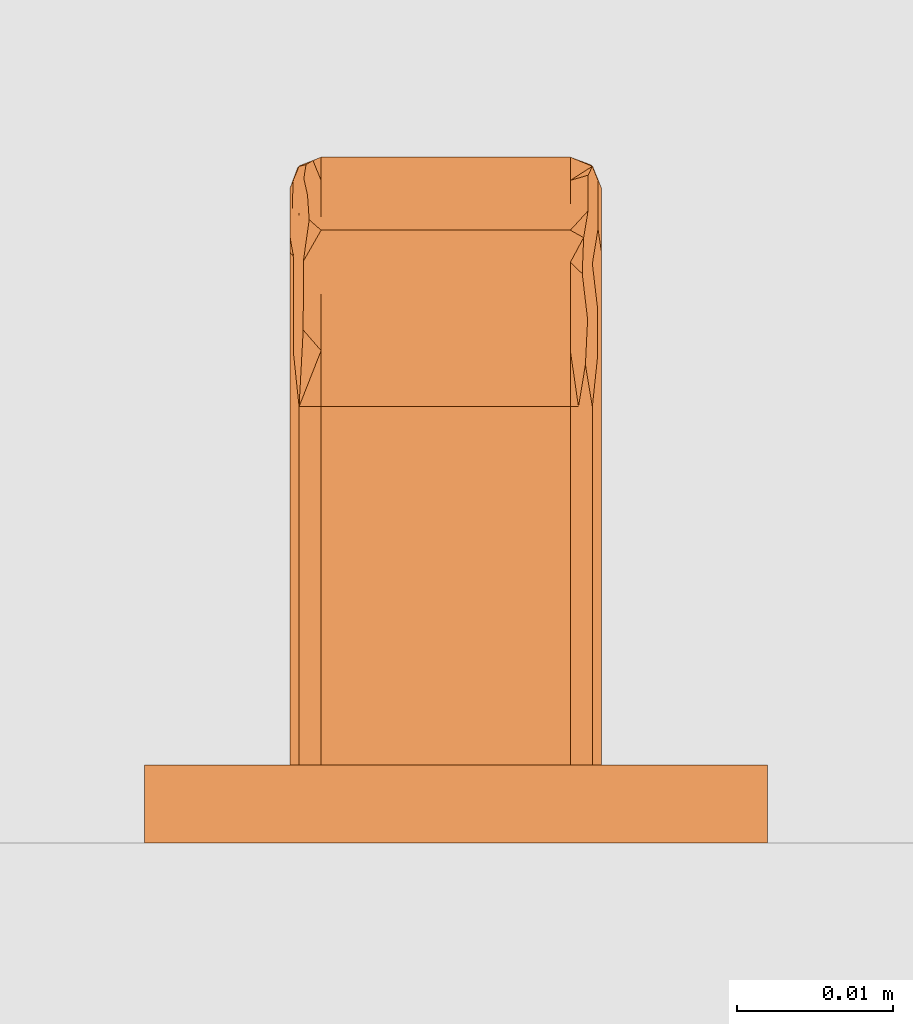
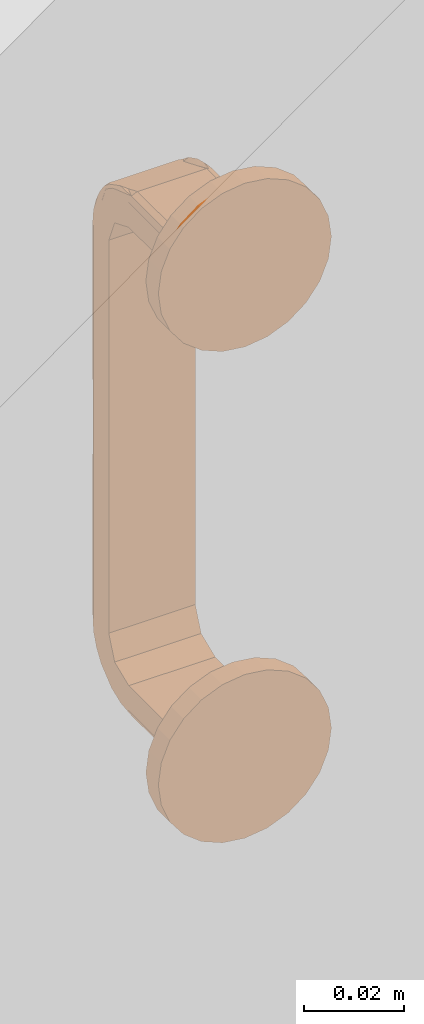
# One storey, part 46 of 67: 1 proxy.
"""IFC4 building model written with IfcOpenShell, lengths in millimetres."""

from ifc_helpers import new_model, entity, si_unit, converted_unit, direction, frame, origin, place, context, subcontext, project, spatial, polygons, source, transform, mapped, material, type_object, type_shapes, element, save


model = new_model("IFC4")

# Units and contexts
model_context = context("Model", 3, precision=0.01, world=origin(), true_north=direction((0.0, 1.0)))
body_context = subcontext(model_context, "Body", "Model", "MODEL_VIEW")
ifc_project = project(units=[si_unit("LENGTHUNIT", "METRE", prefix="MILLI"), si_unit("AREAUNIT", "SQUARE_METRE"), si_unit("VOLUMEUNIT", "CUBIC_METRE"), converted_unit("PLANEANGLEUNIT", "DEGREE", entity("IfcPlaneAngleMeasure", 0.017453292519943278), si_unit("PLANEANGLEUNIT", "RADIAN"), dimensions=[0, 0, 0, 0, 0, 0, 0])], contexts=[model_context])

# Site, building, storey, space
site_placement = place(None, origin())
site = spatial("IfcSite", under=ifc_project, at=site_placement, Name="Tomtens navn", CompositionType="ELEMENT")
building_placement = place(site_placement, origin())
building = spatial("IfcBuilding", under=site, at=building_placement, Name="Byggets navn", CompositionType="ELEMENT")
storey_placement = place(building_placement, origin())
storey = spatial("IfcBuildingStorey", under=building, at=storey_placement, Name="Level 01", CompositionType="ELEMENT", Elevation=2.1993652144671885e-25)
space_placement = place(storey_placement, origin())
space = spatial("IfcSpace", under=storey, at=space_placement, Name="102", CompositionType="ELEMENT", PredefinedType="NOTDEFINED")

# Proxy
ifc_material = material(Name="Handtag, vitt", Category="Unassigned")
building_element_proxy_type = type_object("IfcBuildingElementProxyType", Name="Handtag skåp1:Handtag skåp", PredefinedType="NOTDEFINED", material=ifc_material)
shared_shape = source(origin(), body_context, "Body", "Tessellation", [
    polygons([(8.670220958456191, -4.999999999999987, 4.021099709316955), (10.084434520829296, -4.9999999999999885, 3.435313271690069), (10.67022095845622, -4.999999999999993, 2.021099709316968), (10.67022095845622, -5.0000000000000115, -4.0210997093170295), (-9.32977904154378, -5.0000000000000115, -4.0210997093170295), (-9.32977904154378, -4.999999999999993, 2.021099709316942), (-8.743992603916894, -4.9999999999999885, 3.435313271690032), (-7.32977904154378, -4.999999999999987, 4.021099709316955), (8.670220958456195, -28.00000000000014, 4.0210997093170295), (10.084434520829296, -28.000000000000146, 3.435313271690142), (10.67022095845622, -28.00000000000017, 2.021099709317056), (8.670220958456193, -15.654960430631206, 4.02109970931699), (10.67022095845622, -17.34503987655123, 2.021099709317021), (10.08659387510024, -16.21238630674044, 3.433150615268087), (10.67022095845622, -37.914414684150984, -2.085585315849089), (10.67022095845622, -42.02109970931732, -11.999999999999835), (10.67022095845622, -42.02109970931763, -107.99999999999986), (10.67022095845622, -37.914414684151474, -117.91441468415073), (10.67022095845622, -28.00000000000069, -122.02109970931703), (10.67022095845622, -4.999999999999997, -122.02109970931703), (10.67022095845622, -4.999999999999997, -115.97890029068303), (10.67022095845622, -28.000000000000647, -115.97890029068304), (10.67022095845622, -33.641934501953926, -113.64193450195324), (10.67022095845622, -35.978900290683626, -107.99999999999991), (10.67022095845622, -35.978900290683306, -11.999999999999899), (10.67022095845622, -33.64193450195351, -6.358065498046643), (10.67022095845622, -28.000000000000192, -4.021099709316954), (-9.32977904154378, -28.000000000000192, -4.021099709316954), (-9.32977904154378, -33.64193450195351, -6.358065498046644), (-9.32977904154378, -35.97890029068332, -11.999999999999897), (-9.32977904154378, -35.97890029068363, -107.99999999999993), (-9.32977904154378, -33.641934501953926, -113.64193450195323), (-9.32977904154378, -28.000000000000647, -115.978900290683), (-9.32977904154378, -4.999999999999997, -115.978900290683), (-9.32977904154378, -4.999999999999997, -122.02109970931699), (-9.32977904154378, -28.00000000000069, -122.02109970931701), (-9.32977904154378, -37.91441468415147, -117.91441468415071), (-9.32977904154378, -42.0210997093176, -107.9999999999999), (-9.32977904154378, -42.02109970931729, -11.99999999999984), (-9.32977904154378, -37.91441468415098, -2.085585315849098), (-9.32977904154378, -28.000000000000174, 2.0210997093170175), (-8.743992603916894, -28.000000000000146, 3.435313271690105), (-7.329779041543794, -28.000000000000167, 4.0210997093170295), (-9.32977904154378, -15.654960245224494, 2.0210997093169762), (-7.3297790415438, -17.3450402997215, 4.021099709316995), (-8.741829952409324, -16.212386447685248, 3.4374726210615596), (8.670220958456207, -39.328628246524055, -0.6713717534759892), (8.670220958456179, -44.021099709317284, -11.999999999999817), (10.084434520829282, -43.43531327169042, -11.999999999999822), (10.67022095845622, -31.601265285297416, 0.5294067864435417), (8.670220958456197, -41.037713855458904, -4.797469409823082), (10.084434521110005, -40.40873190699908, -2.820007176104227), (8.670220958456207, -35.20253058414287, 1.0377138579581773), (9.809043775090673, -37.34144424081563, 0.5752165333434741), (9.818751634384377, -32.92350079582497, 2.8642465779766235), (10.67022095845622, -39.96775719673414, -7.042792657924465), (10.377327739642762, -28.000000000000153, 2.7282064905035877), (8.670220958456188, -42.529406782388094, -8.398734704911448), (9.779150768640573, -42.65191997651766, -6.400304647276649), (10.431420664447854, -34.75591670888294, 1.3575143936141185), (10.447049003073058, -37.641402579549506, -0.5884869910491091), (10.67022095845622, -34.7578399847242, -0.7780892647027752), (10.453824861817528, -31.5292743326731, 2.5026982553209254), (8.670220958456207, -31.601265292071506, 2.5294067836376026), (8.670220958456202, -40.18317105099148, -2.7344205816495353), (9.435587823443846, -40.00295364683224, -1.6197407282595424), (9.543801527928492, -41.59747716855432, -3.9137042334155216), (10.67022095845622, -38.941085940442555, -4.564188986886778), (10.502246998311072, -40.95405539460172, -4.794062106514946), (10.477567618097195, -42.45420227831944, -8.476170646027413), (9.193272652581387, -43.80444460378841, -11.999999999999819), (9.638611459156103, -43.53877057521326, -9.303396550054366), (10.67022095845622, -40.99442845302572, -9.521396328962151), (-7.329779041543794, -44.021099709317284, -11.999999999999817), (-7.329779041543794, -39.328628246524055, -0.6713717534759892), (-8.743992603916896, -43.43531327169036, -11.999999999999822), (-7.329779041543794, -35.20253057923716, 1.0377138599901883), (-8.743992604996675, -37.179992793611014, 0.40873192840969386), (-9.32977904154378, -40.52940677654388, -8.39873469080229), (-7.329779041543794, -41.03771385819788, -4.7974694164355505), (-8.468601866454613, -40.57521654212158, -2.658555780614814), (-8.478309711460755, -42.86424658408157, -7.076499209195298), (-9.32977904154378, -32.95720734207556, -0.03224280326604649), (-9.036885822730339, -42.72820649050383, -11.999999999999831), (-7.329779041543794, -31.601265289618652, 2.529406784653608), (-8.43870885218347, -33.59969531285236, 2.6519199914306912), (-9.090978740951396, -41.35751443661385, -5.244083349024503), (-9.106607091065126, -39.41151304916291, -2.3585974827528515), (-9.32977904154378, -39.221910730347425, -5.242160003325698), (-9.11338295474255, -42.50269824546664, -8.470725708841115), (-7.329779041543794, -42.52940678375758, -8.398734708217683), (-7.329779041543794, -37.26557941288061, 0.18317105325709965), (-8.095145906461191, -36.54048464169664, 1.37463273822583), (-8.182791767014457, -38.855367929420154, -0.47819170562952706), (-9.32977904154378, -35.43581101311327, -1.0589140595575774), (-7.852830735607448, -28.00000000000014, 3.8044446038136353), (-8.29816953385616, -30.69660343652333, 3.5387705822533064), (-9.060718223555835, -31.048754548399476, 2.7104148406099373), (-9.074370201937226, -34.340507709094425, 1.5930015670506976), (-9.32977904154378, -30.47860367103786, 0.9944284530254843), (-7.32977904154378, -33.664314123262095, 1.6748639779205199), (8.670220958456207, -33.664314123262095, 1.6748639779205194), (8.670220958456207, -30.748770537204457, 2.882521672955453), (-7.32977904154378, -41.67486397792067, -6.335685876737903), (8.670220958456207, -41.67486397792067, -6.335685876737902), (8.670220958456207, -40.50174611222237, -3.5035288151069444), (-7.32977904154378, -36.496471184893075, 0.5017461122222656), (8.670220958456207, -36.496471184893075, 0.5017461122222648), (-7.32977904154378, -30.83215706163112, 2.847981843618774), (8.670220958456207, -42.882521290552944, -9.251228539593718), (-7.32977904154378, -42.84798184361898, -9.167842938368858), (-7.32977904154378, -40.501746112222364, -3.5035288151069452), (8.670220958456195, -44.0210997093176, -107.99999999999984), (10.084434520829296, -43.435313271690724, -107.99999999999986), (10.67022095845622, -42.02109970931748, -61.38015936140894), (8.670220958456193, -44.021099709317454, -59.99999999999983), (8.670220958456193, -44.02109970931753, -83.30991987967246), (10.67022095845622, -42.02109970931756, -84.69007929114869), (8.670220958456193, -44.021099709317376, -36.69008012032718), (10.67022095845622, -42.02109970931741, -36.69007929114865), (10.67022095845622, -42.02109970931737, -24.34503925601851), (8.670220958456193, -44.021099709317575, -95.65495940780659), (8.670220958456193, -44.02109970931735, -24.345040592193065), (10.67022095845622, -42.021099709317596, -95.65495996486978), (10.084434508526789, -43.43531328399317, -90.1725199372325), (10.67022095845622, -42.021099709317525, -73.03511932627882), (10.043884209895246, -43.4747328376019, -67.20763959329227), (10.084434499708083, -43.435313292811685, -30.517560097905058), (10.084434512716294, -43.435313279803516, -43.7229280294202), (10.67022095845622, -42.021099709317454, -49.035119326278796), (10.049878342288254, -43.469044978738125, -55.462843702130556), (8.670220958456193, -44.02109970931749, -71.65495993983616), (10.188152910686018, -43.32336027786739, -78.66752152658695), (8.670220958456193, -44.02109970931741, -48.345040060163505), (-8.743992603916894, -43.43531327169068, -107.99999999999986), (-7.329779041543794, -44.0210997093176, -107.99999999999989), (-7.3297790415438, -44.02109970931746, -61.38015933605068), (-9.32977904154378, -42.021099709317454, -59.999999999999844), (-9.32977904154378, -42.02109970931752, -83.30992008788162), (-7.329779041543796, -44.02109970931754, -84.69007966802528), (-9.32977904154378, -42.02109970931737, -36.6900794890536), (-7.329779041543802, -44.021099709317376, -36.69007998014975), (-7.329779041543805, -44.02109970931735, -24.345039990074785), (-9.32977904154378, -42.02109970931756, -95.65495983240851), (-9.32977904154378, -42.02109970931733, -24.34503974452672), (-7.329779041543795, -44.021099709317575, -95.6549600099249), (-8.743992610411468, -43.43531326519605, -90.17252002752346), (-7.329779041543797, -44.0210997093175, -73.03511950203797), (-8.783412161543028, -43.39476296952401, -67.20763991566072), (-8.743992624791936, -43.43531325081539, -30.51756039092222), (-8.743992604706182, -43.43531327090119, -43.72292838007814), (-7.3297790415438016, -44.02109970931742, -49.03511997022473), (-8.777724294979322, -43.40075710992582, -55.462844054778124), (-9.32977904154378, -42.02109970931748, -71.65496025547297), (-8.632039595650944, -43.53903167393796, -78.66752173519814), (-9.32977904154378, -42.021099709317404, -48.34503974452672), (8.670220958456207, -39.32862824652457, -119.32862824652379), (8.670220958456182, -28.000000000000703, -124.02109970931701), (10.08443452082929, -28.0000000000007, -123.43531327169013), (10.67022095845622, -40.52940678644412, -111.60126528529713), (8.670220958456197, -35.202530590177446, -121.03771385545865), (10.084434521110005, -37.17999282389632, -120.40873190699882), (8.670220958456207, -41.03771385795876, -115.20253058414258), (9.809043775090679, -40.57521653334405, -117.34144424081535), (9.818751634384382, -42.864246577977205, -112.9235007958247), (10.67022095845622, -32.95720734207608, -119.96775719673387), (10.377327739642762, -42.728206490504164, -107.99999999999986), (8.67022095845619, -31.601265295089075, -122.52940678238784), (9.779150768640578, -33.59969535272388, -122.6519199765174), (10.431420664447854, -41.3575143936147, -114.75591670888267), (10.447049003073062, -39.41151300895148, -117.64140257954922), (10.67022095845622, -39.2219107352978, -114.75783998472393), (10.453824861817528, -42.50269825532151, -111.52927433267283), (8.670220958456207, -42.52940678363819, -111.60126529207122), (8.670220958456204, -37.26557941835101, -120.18317105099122), (9.435587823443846, -38.38025927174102, -120.00295364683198), (9.543801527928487, -36.08629576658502, -121.59747716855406), (10.67022095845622, -35.435811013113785, -118.9410859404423), (10.502246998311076, -35.205937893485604, -120.95405539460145), (10.477567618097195, -31.52382935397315, -122.45420227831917), (9.193272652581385, -28.0000000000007, -123.80444460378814), (9.638611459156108, -30.69660344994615, -123.538770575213), (10.67022095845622, -30.47860367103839, -120.99442845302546), (-7.329779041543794, -28.000000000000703, -124.02109970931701), (-7.329779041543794, -39.32862824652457, -119.32862824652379), (-8.743992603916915, -28.0000000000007, -123.43531327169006), (-7.329779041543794, -41.03771385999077, -115.20253057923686), (-8.743992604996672, -40.40873192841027, -117.17999279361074), (-9.32977904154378, -31.60126530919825, -120.52940677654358), (-7.329779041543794, -35.20253058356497, -121.03771385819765), (-8.468601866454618, -37.341444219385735, -120.57521654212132), (-8.478309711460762, -32.92350079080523, -122.8642465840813), (-9.32977904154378, -39.967757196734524, -112.9572073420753), (-9.036885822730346, -28.000000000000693, -122.72820649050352), (-7.329779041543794, -42.529406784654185, -111.60126528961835), (-8.438708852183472, -42.65191999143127, -113.59969531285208), (-9.090978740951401, -34.75591665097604, -121.35751443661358), (-9.106607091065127, -37.64140251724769, -119.41151304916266), (-9.32977904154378, -34.75783999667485, -119.22191073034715), (-9.113382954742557, -31.529274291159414, -122.50269824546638), (-7.329779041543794, -31.601265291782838, -122.52940678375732), (-7.329779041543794, -40.18317105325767, -117.26557941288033), (-8.095145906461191, -41.37463273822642, -116.54048464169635), (-8.182791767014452, -39.521808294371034, -118.8553679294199), (-9.32977904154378, -38.941085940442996, -115.435811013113), (-7.852830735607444, -43.804444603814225, -107.99999999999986), (-8.298169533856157, -43.53877058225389, -110.69660343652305), (-9.060718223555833, -42.710414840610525, -111.04875454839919), (-9.074370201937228, -41.59300156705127, -114.34050770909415), (-9.32977904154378, -40.99442845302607, -110.47860367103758), (-7.32977904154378, -41.6748639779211, -113.66431412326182), (8.670220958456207, -41.6748639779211, -113.66431412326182), (8.670220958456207, -42.88252167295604, -110.74877053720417), (-7.32977904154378, -33.66431412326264, -121.67486397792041), (8.670220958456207, -33.66431412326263, -121.67486397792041), (8.670220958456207, -36.4964711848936, -120.50174611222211), (-7.32977904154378, -40.50174611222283, -116.49647118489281), (8.670220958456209, -40.50174611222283, -116.49647118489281), (-7.32977904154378, -42.84798184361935, -110.83215706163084), (8.670220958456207, -30.748771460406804, -122.88252129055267), (-7.32977904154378, -30.832157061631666, -122.84798184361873), (-7.32977904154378, -36.49647118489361, -120.50174611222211), (8.670220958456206, -4.99999999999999, -124.02109970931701), (-7.329779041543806, -4.99999999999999, -124.021099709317), (-8.743992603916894, -4.99999999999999, -123.43531327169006), (10.084434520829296, -4.99999999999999, -123.43531327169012), (8.670220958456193, -17.345041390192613, -124.021099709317), (10.67022095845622, -15.654959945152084, -122.02109970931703), (10.086593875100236, -16.787613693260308, -123.43315061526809), (-9.32977904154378, -17.34504010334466, -122.02109970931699), (-7.3297790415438, -15.654959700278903, -124.021099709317), (-8.741829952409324, -16.787613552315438, -123.43747262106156)], [[[8, 1, 2, 3, 4, 5, 6, 7]], [[30, 25, 24, 31]], [[35, 34, 21, 20, 226, 223, 224, 225]], [[13, 10, 57, 11]], [[10, 13, 14]], [[14, 12, 9]], [[12, 2, 1]], [[14, 2, 12]], [[3, 14, 13]], [[3, 2, 14]], [[9, 10, 14]], [[4, 3, 13, 11, 50, 62, 15, 68, 56, 73, 16, 121, 120, 130, 115, 126, 118, 124, 17, 160, 172, 18, 178, 166, 183, 19, 228, 20, 21, 22, 23, 24, 25, 26, 27]], [[5, 4, 27, 28]], [[184, 231, 224, 223, 227, 158]], [[34, 35, 230, 36, 189, 199, 37, 205, 193, 210, 38, 144, 139, 154, 138, 156, 141, 145, 39, 79, 89, 40, 95, 83, 100, 41, 44, 6, 5, 28, 29, 30, 31, 32, 33]], [[45, 42, 96, 43]], [[42, 45, 46]], [[46, 44, 41]], [[44, 7, 6]], [[46, 7, 44]], [[8, 46, 45]], [[8, 7, 46]], [[41, 42, 46]], [[1, 8, 45, 43, 9, 12]], [[33, 22, 21, 34]], [[61, 62, 60]], [[69, 56, 68]], [[47, 65, 66]], [[53, 54, 55]], [[59, 51, 105, 58]], [[67, 65, 106, 51]], [[70, 56, 69]], [[63, 60, 50]], [[10, 64, 55]], [[52, 67, 59]], [[54, 53, 108, 47]], [[58, 71, 72]], [[60, 55, 54]], [[68, 61, 69]], [[67, 52, 66]], [[15, 61, 68]], [[63, 10, 55]], [[11, 57, 10, 63]], [[71, 58, 110, 48]], [[49, 16, 70]], [[61, 60, 54]], [[50, 11, 63]], [[52, 61, 54]], [[62, 61, 15]], [[62, 50, 60]], [[55, 60, 63]], [[10, 9, 103, 64]], [[55, 64, 102, 53]], [[52, 54, 66]], [[54, 47, 66]], [[65, 67, 66]], [[51, 59, 67]], [[61, 52, 69]], [[52, 59, 69]], [[70, 69, 59]], [[59, 72, 70]], [[70, 16, 73, 56]], [[72, 71, 49]], [[70, 72, 49]], [[58, 72, 59]], [[26, 29, 28, 27]], [[25, 30, 29, 26]], [[96, 85, 109, 43]], [[90, 87, 79]], [[86, 77, 101, 85]], [[98, 99, 86]], [[93, 92, 107, 77]], [[87, 82, 81]], [[81, 82, 80]], [[99, 95, 78]], [[88, 89, 87]], [[86, 99, 78]], [[78, 94, 93]], [[76, 91, 82]], [[81, 80, 112, 75]], [[92, 93, 94]], [[94, 78, 88]], [[40, 88, 95]], [[90, 76, 82]], [[39, 84, 76, 90]], [[98, 97, 42]], [[97, 98, 86]], [[88, 87, 81]], [[79, 39, 90]], [[88, 81, 94]], [[89, 88, 40]], [[89, 79, 87]], [[82, 87, 90]], [[76, 74, 111, 91]], [[82, 91, 104, 80]], [[77, 86, 93]], [[86, 78, 93]], [[81, 75, 94]], [[92, 94, 75]], [[95, 88, 78]], [[97, 96, 42]], [[85, 96, 97]], [[85, 97, 86]], [[42, 41, 98]], [[100, 83, 95, 99]], [[99, 98, 100]], [[98, 41, 100]], [[103, 9, 43, 109, 85, 101, 77, 107, 92, 75, 47, 108, 53, 102, 64]], [[105, 51, 106, 65, 47, 75, 112, 80, 104, 91, 111, 74, 48, 110, 58]], [[121, 16, 49, 128, 129, 130, 120]], [[118, 125, 114, 167, 17, 124]], [[126, 133, 118]], [[126, 115, 127]], [[123, 119, 134, 129, 128, 49, 71, 48]], [[125, 117, 122, 113, 114]], [[131, 130, 129]], [[130, 131, 115]], [[126, 127, 133]], [[127, 116, 132]], [[133, 117, 125]], [[131, 134, 116]], [[131, 116, 127]], [[115, 131, 127]], [[131, 129, 134]], [[133, 127, 132]], [[133, 132, 117]], [[118, 133, 125]], [[143, 74, 76, 150, 151, 152, 142]], [[140, 147, 135, 206, 136, 146]], [[148, 155, 140]], [[148, 137, 149]], [[145, 141, 156, 151, 150, 76, 84, 39]], [[147, 139, 144, 38, 135]], [[153, 152, 151]], [[152, 153, 137]], [[148, 149, 155]], [[149, 138, 154]], [[155, 139, 147]], [[153, 156, 138]], [[153, 138, 149]], [[137, 153, 149]], [[153, 151, 156]], [[155, 149, 154]], [[155, 154, 139]], [[140, 155, 147]], [[48, 74, 143, 142, 152, 137, 148, 140, 146, 136, 113, 122, 117, 132, 116, 134, 119, 123]], [[171, 172, 170]], [[179, 166, 178]], [[157, 176, 164]], [[163, 164, 165]], [[169, 161, 215, 168]], [[176, 157, 175]], [[180, 166, 179]], [[173, 170, 160]], [[114, 174, 165]], [[162, 177, 169]], [[164, 163, 218, 157]], [[168, 181, 182]], [[170, 165, 164]], [[178, 171, 179]], [[177, 162, 176]], [[18, 171, 178]], [[173, 114, 165]], [[17, 167, 114, 173]], [[181, 168, 220, 158]], [[159, 19, 180]], [[171, 170, 164]], [[160, 17, 173]], [[162, 171, 164]], [[172, 171, 18]], [[172, 160, 170]], [[165, 170, 173]], [[114, 113, 213, 174]], [[165, 174, 212, 163]], [[177, 175, 216, 161]], [[164, 176, 162]], [[175, 177, 176]], [[161, 169, 177]], [[171, 162, 179]], [[162, 169, 179]], [[180, 179, 169]], [[169, 182, 180]], [[180, 19, 183, 166]], [[182, 181, 159]], [[180, 182, 159]], [[168, 182, 169]], [[23, 32, 31, 24]], [[22, 33, 32, 23]], [[206, 195, 219, 136]], [[200, 197, 189]], [[196, 187, 211, 195]], [[208, 209, 196]], [[203, 202, 217, 187]], [[197, 192, 191]], [[191, 192, 190]], [[209, 205, 188]], [[198, 199, 197]], [[196, 209, 188]], [[188, 204, 203]], [[186, 201, 192]], [[191, 190, 222, 185]], [[202, 203, 204]], [[203, 196, 188]], [[37, 198, 205]], [[200, 186, 192]], [[36, 194, 186, 200]], [[208, 207, 135]], [[207, 208, 196]], [[198, 197, 191]], [[189, 36, 200]], [[198, 191, 204]], [[199, 198, 37]], [[199, 189, 197]], [[192, 197, 200]], [[186, 184, 221, 201]], [[192, 201, 214, 190]], [[196, 203, 187]], [[198, 204, 188]], [[191, 185, 204]], [[202, 204, 185]], [[205, 198, 188]], [[207, 206, 135]], [[195, 206, 207]], [[195, 207, 196]], [[135, 38, 208]], [[210, 193, 205, 209]], [[209, 208, 210]], [[208, 38, 210]], [[213, 113, 136, 219, 195, 211, 187, 217, 202, 185, 157, 218, 163, 212, 174]], [[215, 161, 216, 175, 157, 185, 222, 190, 214, 201, 221, 184, 158, 220, 168]], [[228, 226, 20]], [[226, 228, 229]], [[229, 227, 223]], [[227, 159, 181, 158]], [[229, 159, 227]], [[19, 229, 228]], [[19, 159, 229]], [[223, 226, 229]], [[231, 225, 224]], [[225, 231, 232]], [[232, 230, 35]], [[230, 186, 194, 36]], [[232, 186, 230]], [[184, 232, 231]], [[184, 186, 232]], [[35, 225, 232]]], closed=True),
    polygons([(-20.00000000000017, -4.999999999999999, 1.386238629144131e-14), (-19.318516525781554, -4.999999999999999, -5.176380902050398), (-17.320508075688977, -4.999999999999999, -9.999999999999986), (-14.14213562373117, -4.999999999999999, -14.142135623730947), (-10.000000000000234, -4.999999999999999, -17.320508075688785), (-5.176380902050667, -4.999999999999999, -19.318516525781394), (-2.580269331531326e-13, -4.999999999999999, -20.00000000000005), (5.176380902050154, -4.999999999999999, -19.31851652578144), (9.999999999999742, -4.999999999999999, -17.320508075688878), (14.142135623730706, -4.999999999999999, -14.142135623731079), (17.320508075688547, -4.999999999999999, -10.000000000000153), (19.318516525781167, -4.999999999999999, -5.176380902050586), (19.999999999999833, -4.999999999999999, -5.075939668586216e-14), (19.3185165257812, -4.999999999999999, 5.17638090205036), (17.32050807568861, -4.999999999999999, 9.999999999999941), (14.142135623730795, -4.999999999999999, 14.142135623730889), (9.99999999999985, -4.999999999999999, 17.32050807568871), (5.176380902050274, -4.999999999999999, 19.31851652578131), (-1.3958834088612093e-13, -4.999999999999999, 19.99999999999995), (-5.176380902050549, -4.999999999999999, 19.318516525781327), (-10.000000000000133, -4.999999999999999, 17.320508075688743), (-14.142135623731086, -4.999999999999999, 14.142135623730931), (-17.320508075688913, -4.999999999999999, 9.999999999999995), (-19.318516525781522, -4.999999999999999, 5.176380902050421), (-20.00000000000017, 0.0, 4.9806020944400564e-15), (-19.318516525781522, 0.0, 5.176380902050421), (-17.320508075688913, 0.0, 9.999999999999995), (-14.142135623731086, 0.0, 14.142135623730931), (-10.000000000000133, 0.0, 17.320508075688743), (-5.176380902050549, 0.0, 19.318516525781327), (-1.3958834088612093e-13, 0.0, 19.99999999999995), (5.176380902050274, 0.0, 19.31851652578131), (9.99999999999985, 0.0, 17.32050807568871), (14.142135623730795, 0.0, 14.142135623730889), (17.32050807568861, 0.0, 9.999999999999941), (19.3185165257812, 0.0, 5.17638090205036), (19.999999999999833, 0.0, -1.622393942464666e-13), (19.318516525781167, 0.0, -5.176380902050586), (17.320508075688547, 0.0, -10.000000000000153), (14.142135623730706, 0.0, -14.142135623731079), (9.999999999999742, 0.0, -17.320508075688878), (5.176380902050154, 0.0, -19.31851652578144), (-2.580269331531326e-13, 0.0, -20.00000000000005), (-5.176380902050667, 0.0, -19.318516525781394), (-10.000000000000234, 0.0, -17.320508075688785), (-14.14213562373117, 0.0, -14.142135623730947), (-17.320508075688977, 0.0, -9.999999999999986), (-19.318516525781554, 0.0, -5.176380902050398)], [[[8, 9, 10, 11, 12, 13, 14, 15, 16, 17, 18, 19, 20, 21, 22, 23, 24, 1, 2, 3, 4, 5, 6, 7]], [[31, 32, 33, 34, 35, 36, 37, 38, 39, 40, 41, 42, 43, 44, 45, 46, 47, 48, 25, 26, 27, 28, 29, 30]], [[48, 2, 1, 25]], [[47, 3, 2, 48]], [[5, 4, 46, 45]], [[47, 46, 4, 3]], [[6, 5, 45, 44]], [[7, 6, 44, 43]], [[42, 8, 7, 43]], [[41, 9, 8, 42]], [[11, 10, 40, 39]], [[41, 40, 10, 9]], [[12, 11, 39, 38]], [[13, 12, 38, 37]], [[36, 14, 13, 37]], [[35, 15, 14, 36]], [[17, 16, 34, 33]], [[35, 34, 16, 15]], [[18, 17, 33, 32]], [[19, 18, 32, 31]], [[30, 20, 19, 31]], [[29, 21, 20, 30]], [[23, 22, 28, 27]], [[29, 28, 22, 21]], [[24, 23, 27, 26]], [[1, 24, 26, 25]]], closed=True),
    polygons([(-20.000000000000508, -4.999999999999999, -120.0), (-19.31851652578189, -4.999999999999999, -125.17638090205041), (-17.32050807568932, -4.999999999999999, -130.0), (-14.142135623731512, -4.999999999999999, -134.14213562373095), (-10.000000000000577, -4.999999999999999, -137.3205080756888), (-5.176380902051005, -4.999999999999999, -139.3185165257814), (-6.006528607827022e-13, -4.999999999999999, -140.00000000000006), (5.176380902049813, -4.999999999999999, -139.31851652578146), (9.999999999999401, -4.999999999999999, -137.3205080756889), (14.142135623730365, -4.999999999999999, -134.1421356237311), (17.320508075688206, -4.999999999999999, -130.00000000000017), (19.318516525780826, -4.999999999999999, -125.1763809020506), (19.999999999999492, -4.999999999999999, -120.00000000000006), (19.31851652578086, -4.999999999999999, -114.82361909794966), (17.32050807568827, -4.999999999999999, -110.00000000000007), (14.142135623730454, -4.999999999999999, -105.85786437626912), (9.99999999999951, -4.999999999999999, -102.6794919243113), (5.176380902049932, -4.999999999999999, -100.6814834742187), (-4.779843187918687e-13, -4.999999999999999, -100.00000000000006), (-5.176380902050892, -4.999999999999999, -100.68148347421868), (-10.000000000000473, -4.999999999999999, -102.67949192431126), (-14.142135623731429, -4.999999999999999, -105.85786437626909), (-17.320508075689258, -4.999999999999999, -110.00000000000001), (-19.31851652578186, -4.999999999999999, -114.82361909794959), (-20.000000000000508, 0.0, -120.00000000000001), (-19.31851652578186, 0.0, -114.82361909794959), (-17.320508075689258, 0.0, -110.00000000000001), (-14.142135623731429, 0.0, -105.85786437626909), (-10.000000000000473, 0.0, -102.67949192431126), (-5.176380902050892, 0.0, -100.68148347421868), (-4.779843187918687e-13, 0.0, -100.00000000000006), (5.176380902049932, 0.0, -100.6814834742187), (9.99999999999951, 0.0, -102.6794919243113), (14.142135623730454, 0.0, -105.85786437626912), (17.32050807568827, 0.0, -110.00000000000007), (19.31851652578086, 0.0, -114.82361909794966), (19.999999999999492, 0.0, -120.00000000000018), (19.318516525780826, 0.0, -125.1763809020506), (17.320508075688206, 0.0, -130.00000000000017), (14.142135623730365, 0.0, -134.1421356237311), (9.999999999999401, 0.0, -137.3205080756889), (5.176380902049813, 0.0, -139.31851652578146), (-6.006528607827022e-13, 0.0, -140.00000000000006), (-5.176380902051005, 0.0, -139.3185165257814), (-10.000000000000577, 0.0, -137.3205080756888), (-14.142135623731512, 0.0, -134.14213562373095), (-17.32050807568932, 0.0, -130.0), (-19.31851652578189, 0.0, -125.17638090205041)], [[[7, 8, 9, 10, 11, 12, 13, 14, 15, 16, 17, 18, 19, 20, 21, 22, 23, 24, 1, 2, 3, 4, 5, 6]], [[31, 32, 33, 34, 35, 36, 37, 38, 39, 40, 41, 42, 43, 44, 45, 46, 47, 48, 25, 26, 27, 28, 29, 30]], [[48, 2, 1, 25]], [[47, 3, 2, 48]], [[5, 4, 46, 45]], [[47, 46, 4, 3]], [[6, 5, 45, 44]], [[7, 6, 44, 43]], [[42, 8, 7, 43]], [[41, 9, 8, 42]], [[11, 10, 40, 39]], [[41, 40, 10, 9]], [[12, 11, 39, 38]], [[13, 12, 38, 37]], [[36, 14, 13, 37]], [[35, 15, 14, 36]], [[17, 16, 34, 33]], [[35, 34, 16, 15]], [[18, 17, 33, 32]], [[19, 18, 32, 31]], [[30, 20, 19, 31]], [[29, 21, 20, 30]], [[23, 22, 28, 27]], [[29, 28, 22, 21]], [[24, 23, 27, 26]], [[1, 24, 26, 25]]], closed=True),
])
type_shapes(building_element_proxy_type, [shared_shape])
proxy_placement = place(space_placement, frame((66751.85352810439, 18543.46645692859, 1120.0), z_axis=(0.0, 0.0, 1.0), x_axis=(-1.0, 0.0, 0.0)))
element("IfcBuildingElementProxy", 1, at=proxy_placement, inside=space, type_object=building_element_proxy_type, material=ifc_material, Name="Handtag skåp1:Handtag skåp", PredefinedType="NOTDEFINED", context=body_context, shape_type="MappedRepresentation", body=[
    mapped(shared_shape, transform((0.0, 0.0, 0.0), scale=1.0)),
])

save(model, "model.ifc")
